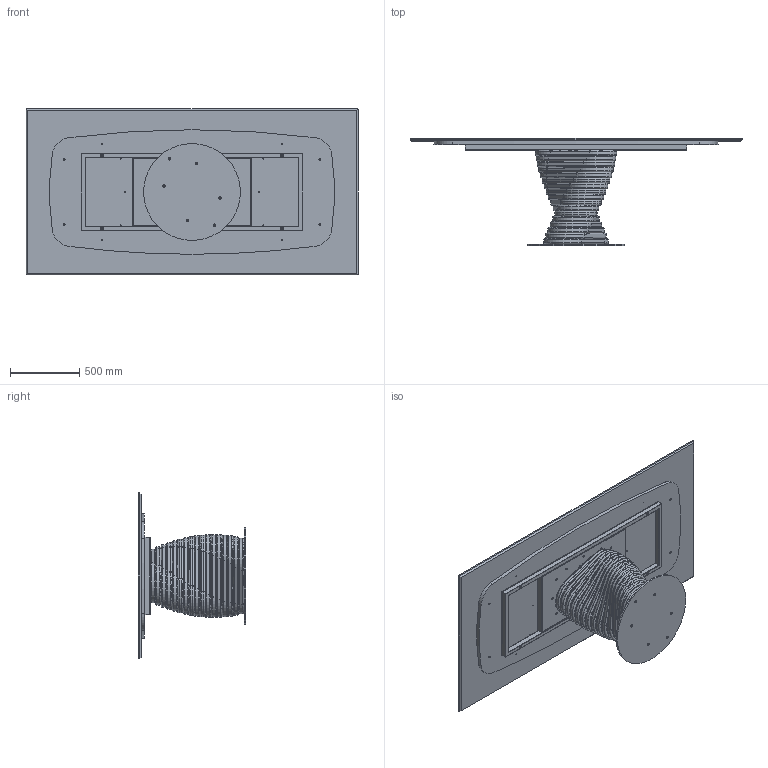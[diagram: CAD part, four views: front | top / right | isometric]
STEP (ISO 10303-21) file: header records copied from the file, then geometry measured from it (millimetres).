
FILE_DESCRIPTION (( 'STEP AP203' ), '1' );
FILE_NAME ('RO23M.STEP', '2024-08-07T13:35:20', ( '' ), ( '' ), 'SwSTEP 2.0', 'SolidWorks 2022', '' );
FILE_SCHEMA (( 'CONFIG_CONTROL_DESIGN' ));
Length unit declared in the file: millimetre
Products named in the file (17): TTAV01_02-05-VASSOIO IRRIGIDIMENTO TELAIO UNIVERSALE; ROBX00000SUP-00-Anello rotolo SUPERIORE_Default<A macchina>; M2XMXX-00-Piani rettangolari in marmo_2400x1200; M8xXXmm_hex_M8X20mm; ROB200000-00-PIASTRA BASE_Ø70cm; ROBX00000INF-00-Anello rotolo INFERIORE_Default<A macchina>; rondella M8_8X24; M8xXXmm_M8x55mm; TRUXXXXXX-00-NOBILITATO GR CON SUPP TRUCIOLARE SP. 25_TRU00007_2100x900; M8xXXmm_M8x20mm; TTAV01-05-TELAIO UNIVERSALE X TAVOLI 180 240cm; M2X-00-Piani rettangolari marmo_2400*1200; RO23M; TTAV01_01-05-TELAIO UNIVERSALE X TAVOLI 180 240cm; ROBX00000MED-00-Anello rotolo MEDIO_Default<A macchina>; ROBX00000-00-ROTOLO BASE 17 ANELLI; COLLO TELAIO UNIVERSALE TTAV01 CON FERRAMENTA_MTG TOP LEGNO-MARMO-KING
Assembly tree (48 placements, depth 4):
  RO23M
    ROB200000-00-PIASTRA BASE_Ø70cm
    ROBX00000-00-ROTOLO BASE 17 ANELLI
      ROBX00000INF-00-Anello rotolo INFERIORE_Default<A macchina>
      ROBX00000MED-00-Anello rotolo MEDIO_Default<A macchina>  x15
      ROBX00000SUP-00-Anello rotolo SUPERIORE_Default<A macchina>
    M8xXXmm_hex_M8X20mm  x6
    COLLO TELAIO UNIVERSALE TTAV01 CON FERRAMENTA_MTG TOP LEGNO-MARMO-KING
      TTAV01-05-TELAIO UNIVERSALE X TAVOLI 180 240cm
        TTAV01_02-05-VASSOIO IRRIGIDIMENTO TELAIO UNIVERSALE
        TTAV01_01-05-TELAIO UNIVERSALE X TAVOLI 180 240cm
      rondella M8_8X24  x4
      M8xXXmm_M8x55mm  x4
    rondella M8_8X24  x4
    M8xXXmm_M8x20mm  x4
    M2XMXX-00-Piani rettangolari in marmo_2400x1200
      M2X-00-Piani rettangolari marmo_2400*1200
      TRUXXXXXX-00-NOBILITATO GR CON SUPP TRUCIOLARE SP. 25_TRU00007_2100x900
Bounding box: 2400 x 777 x 1200 mm (x, y, z)
Volume: 113441401.3 mm3; surface area: 17294740.5 mm2
Topology: 95 solids, 95 shells, 1719 faces, 4097 edges, 2519 vertices
Faces by surface type: plane 664, cylinder 613, torus 244, cone 190, sphere 8
Entity records: 24552 total; most frequent: CARTESIAN_POINT 5377, DIRECTION 3611, ORIENTED_EDGE 3298, EDGE_CURVE 1649, AXIS2_PLACEMENT_3D 1368, VERTEX_POINT 1040, VECTOR 875, LINE 875
